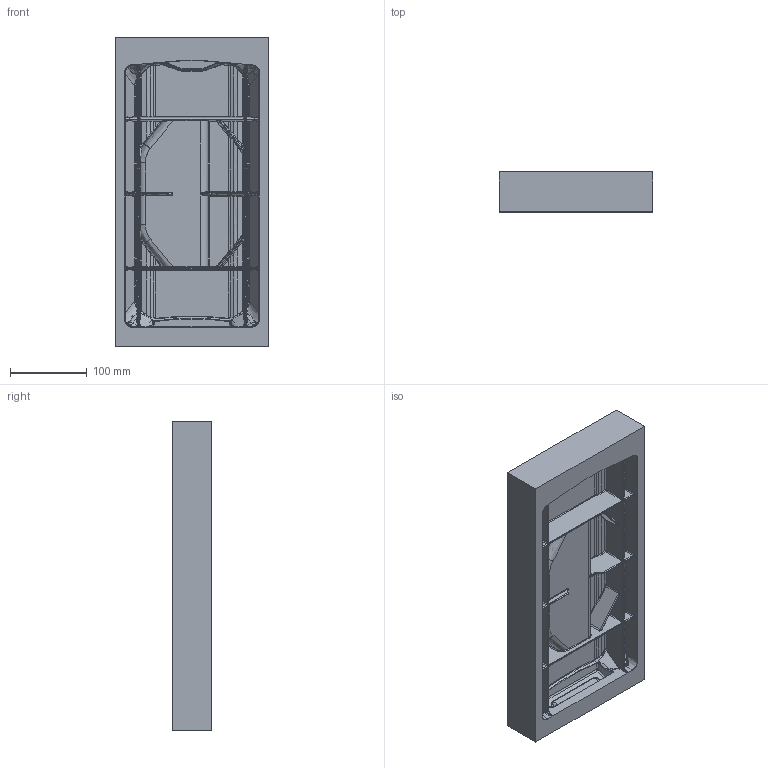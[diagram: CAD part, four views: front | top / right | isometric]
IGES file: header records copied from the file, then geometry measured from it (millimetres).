
Start section: SolidWorks IGES file using analytic representation for surfaces
Global section: file name: C:\Users\chad.chaiyont\My Project\Vault Case\Vault TOR\Vault CAD\PP PID cad\V250 PP\V250 PP tubs\V250 PP TOP TUB 2-5-2024.IGS; native system: SolidWorks 2021; preprocessor: SolidWorks 2021; author: Chad.Chaiyont; date: 240218.150332; units: millimetre
Bounding box: 199.84 x 51.85 x 403.47 mm (x, y, z)
Surface area: 326422.9 mm2 (no closed solid volume)
Topology: 0 solids, 0 shells, 1003 faces, 5436 edges, 5327 vertices
Faces by surface type: bspline 1003
